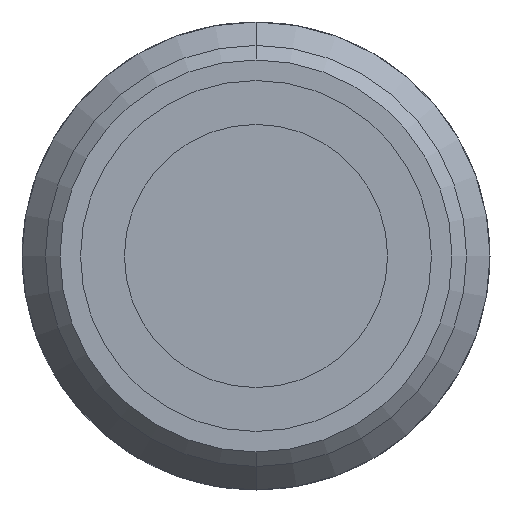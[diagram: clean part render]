
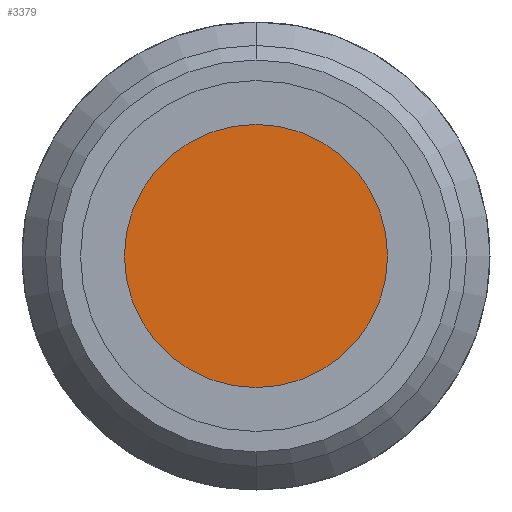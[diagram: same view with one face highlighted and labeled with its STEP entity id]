
A CAD part, front view. The second image highlights one B-rep face of the part: STEP entity #3379.
In plain terms, the highlighted planar face has unit normal (0, -1, 0).
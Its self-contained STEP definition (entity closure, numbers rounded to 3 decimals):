
#263 = DIRECTION ( 'NONE',  ( 0., -1., 0. ) ) ;
#292 = DIRECTION ( 'NONE',  ( 0., 0., 1. ) ) ;
#1694 = AXIS2_PLACEMENT_3D ( 'NONE', #8287, #5607, #292 ) ;
#2405 = AXIS2_PLACEMENT_3D ( 'NONE', #3191, #9421, #4068 ) ;
#2511 = ORIENTED_EDGE ( 'NONE', *, *, #2717, .T. ) ;
#2717 = EDGE_CURVE ( 'NONE', #7117, #7244, #8854, .T. ) ;
#3123 = FACE_OUTER_BOUND ( 'NONE', #3833, .T. ) ;
#3191 = CARTESIAN_POINT ( 'NONE',  ( 0., -9.899, 0. ) ) ;
#3379 = ADVANCED_FACE ( 'NONE', ( #3123 ), #10985, .F. ) ;
#3833 = EDGE_LOOP ( 'NONE', ( #2511, #11037 ) ) ;
#4068 = DIRECTION ( 'NONE',  ( 0., 0., -1. ) ) ;
#5574 = CARTESIAN_POINT ( 'NONE',  ( 0., -9.899, 0. ) ) ;
#5607 = DIRECTION ( 'NONE',  ( 0., 1., 0. ) ) ;
#5855 = CIRCLE ( 'NONE', #2405, 4.5 ) ;
#6474 = DIRECTION ( 'NONE',  ( 0., 0., -1. ) ) ;
#6637 = CARTESIAN_POINT ( 'NONE',  ( 0., -9.899, -4.5 ) ) ;
#7117 = VERTEX_POINT ( 'NONE', #6637 ) ;
#7244 = VERTEX_POINT ( 'NONE', #10412 ) ;
#8287 = CARTESIAN_POINT ( 'NONE',  ( -4.5, -9.899, 0. ) ) ;
#8717 = AXIS2_PLACEMENT_3D ( 'NONE', #5574, #263, #6474 ) ;
#8854 = CIRCLE ( 'NONE', #8717, 4.5 ) ;
#9421 = DIRECTION ( 'NONE',  ( 0., -1., 0. ) ) ;
#10126 = EDGE_CURVE ( 'NONE', #7244, #7117, #5855, .T. ) ;
#10412 = CARTESIAN_POINT ( 'NONE',  ( 0., -9.899, 4.5 ) ) ;
#10985 = PLANE ( 'NONE',  #1694 ) ;
#11037 = ORIENTED_EDGE ( 'NONE', *, *, #10126, .T. ) ;
